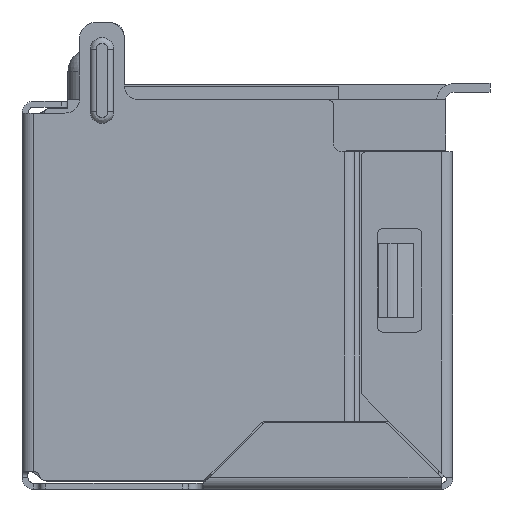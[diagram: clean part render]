
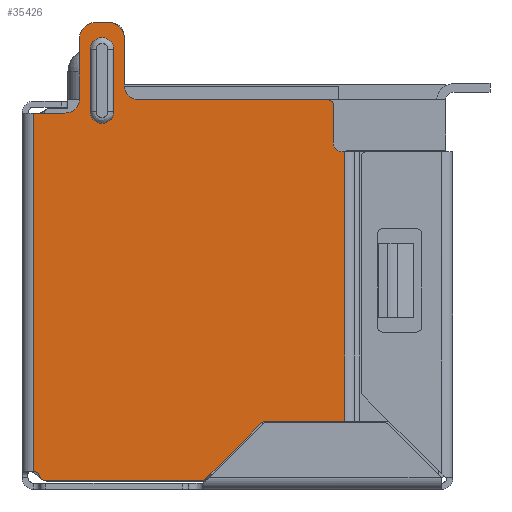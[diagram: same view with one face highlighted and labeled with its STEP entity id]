
A CAD part, left-side view. The second image highlights one B-rep face of the part: STEP entity #35426.
In plain terms, the highlighted planar face has unit normal (-1, 0, 0).
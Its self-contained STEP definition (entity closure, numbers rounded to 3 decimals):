
#29589=DIRECTION('',(0.,0.,-1.));
#29590=VECTOR('',#29589,12.1);
#29591=CARTESIAN_POINT('',(45.47,13.85,-2.21));
#29592=LINE('',#29591,#29590);
#29738=DIRECTION('',(0.,0.,-1.));
#29739=VECTOR('',#29738,1.6);
#29740=CARTESIAN_POINT('',(45.47,10.8,0.34));
#29741=LINE('',#29740,#29739);
#29742=CARTESIAN_POINT('',(45.47,10.3,-1.26));
#29743=DIRECTION('',(-1.,0.,0.));
#29744=DIRECTION('',(0.,1.,0.));
#29745=AXIS2_PLACEMENT_3D('',#29742,#29743,#29744);
#29747=DIRECTION('',(0.,-1.,0.));
#29748=VECTOR('',#29747,6.363);
#29749=CARTESIAN_POINT('',(45.47,10.3,-1.76));
#29750=LINE('',#29749,#29748);
#29751=CARTESIAN_POINT('',(45.47,3.937,-1.96));
#29752=DIRECTION('',(1.,0.,0.));
#29753=DIRECTION('',(0.,0.,1.));
#29754=AXIS2_PLACEMENT_3D('',#29751,#29752,#29753);
#29756=DIRECTION('',(0.,0.,-1.));
#29757=VECTOR('',#29756,1.25);
#29758=CARTESIAN_POINT('',(45.47,3.737,-1.96));
#29759=LINE('',#29758,#29757);
#29760=CARTESIAN_POINT('',(45.47,3.437,-3.21));
#29761=DIRECTION('',(-1.,0.,0.));
#29762=DIRECTION('',(0.,1.,0.));
#29763=AXIS2_PLACEMENT_3D('',#29760,#29761,#29762);
#29765=DIRECTION('',(0.,-1.,0.));
#29766=VECTOR('',#29765,0.089);
#29767=CARTESIAN_POINT('',(45.47,3.437,-3.51));
#29768=LINE('',#29767,#29766);
#29769=CARTESIAN_POINT('',(45.47,6.017,-12.81));
#29770=DIRECTION('',(-1.,0.,0.));
#29771=DIRECTION('',(0.,0.,1.));
#29772=AXIS2_PLACEMENT_3D('',#29769,#29770,#29771);
#29774=DIRECTION('',(0.,0.707,-0.707));
#29775=VECTOR('',#29774,2.663);
#29776=CARTESIAN_POINT('',(45.47,6.159,
-12.669));
#29777=LINE('',#29776,#29775);
#29778=CARTESIAN_POINT('',(45.47,8.183,-14.41));
#29779=DIRECTION('',(1.,0.,0.));
#29780=DIRECTION('',(0.,-0.707,-0.707));
#29781=AXIS2_PLACEMENT_3D('',#29778,#29779,#29780);
#29783=CARTESIAN_POINT('',(45.47,13.463,-14.41));
#29784=DIRECTION('',(1.,0.,0.));
#29785=DIRECTION('',(0.,0.,-1.));
#29786=AXIS2_PLACEMENT_3D('',#29783,#29784,#29785);
#29788=CARTESIAN_POINT('',(45.47,13.85,-14.51));
#29789=DIRECTION('',(-1.,0.,0.));
#29790=DIRECTION('',(0.,-0.968,0.25));
#29791=AXIS2_PLACEMENT_3D('',#29788,#29789,#29790);
#29793=DIRECTION('',(0.,-1.,0.));
#29794=VECTOR('',#29793,1.05);
#29795=CARTESIAN_POINT('',(45.47,13.85,-2.21));
#29796=LINE('',#29795,#29794);
#29797=CARTESIAN_POINT('',(45.47,12.8,-1.71));
#29798=DIRECTION('',(-1.,0.,0.));
#29799=DIRECTION('',(0.,0.,-1.));
#29800=AXIS2_PLACEMENT_3D('',#29797,#29798,#29799);
#29802=DIRECTION('',(0.,0.,1.));
#29803=VECTOR('',#29802,2.05);
#29804=CARTESIAN_POINT('',(45.47,12.3,-1.71));
#29805=LINE('',#29804,#29803);
#29806=CARTESIAN_POINT('',(45.47,11.8,0.34));
#29807=DIRECTION('',(1.,0.,0.));
#29808=DIRECTION('',(0.,1.,0.));
#29809=AXIS2_PLACEMENT_3D('',#29806,#29807,#29808);
#29811=DIRECTION('',(0.,-1.,0.));
#29812=VECTOR('',#29811,0.5);
#29813=CARTESIAN_POINT('',(45.47,11.8,0.84));
#29814=LINE('',#29813,#29812);
#29815=CARTESIAN_POINT('',(45.47,11.3,0.34));
#29816=DIRECTION('',(1.,0.,0.));
#29817=DIRECTION('',(0.,0.,1.));
#29818=AXIS2_PLACEMENT_3D('',#29815,#29816,#29817);
#29820=CARTESIAN_POINT('',(45.47,11.55,-2.16));
#29821=DIRECTION('',(-1.,0.,0.));
#29822=DIRECTION('',(0.,1.,0.));
#29823=AXIS2_PLACEMENT_3D('',#29820,#29821,#29822);
#29825=CARTESIAN_POINT('',(45.47,11.55,-0.06));
#29826=DIRECTION('',(-1.,0.,0.));
#29827=DIRECTION('',(0.,-1.,0.));
#29828=AXIS2_PLACEMENT_3D('',#29825,#29826,#29827);
#29968=DIRECTION('',(0.,-1.,0.));
#29969=VECTOR('',#29968,2.669);
#29970=CARTESIAN_POINT('',(45.47,6.017,-12.61));
#29971=LINE('',#29970,#29969);
#30002=DIRECTION('',(0.,-1.,0.));
#30003=VECTOR('',#30002,5.28);
#30004=CARTESIAN_POINT('',(45.47,13.463,-14.61));
#30005=LINE('',#30004,#30003);
#31909=DIRECTION('',(0.,0.,1.));
#31910=VECTOR('',#31909,9.1);
#31911=CARTESIAN_POINT('',(45.47,3.348,-12.61));
#31912=LINE('',#31911,#31910);
#32067=DIRECTION('',(0.,0.,1.));
#32068=VECTOR('',#32067,2.1);
#32069=CARTESIAN_POINT('',(45.47,11.95,-2.16));
#32070=LINE('',#32069,#32068);
#32086=DIRECTION('',(0.,0.,-1.));
#32087=VECTOR('',#32086,2.1);
#32088=CARTESIAN_POINT('',(45.47,11.15,-0.06));
#32089=LINE('',#32088,#32087);
#33789=CARTESIAN_POINT('',(45.47,13.85,-2.21));
#33790=VERTEX_POINT('',#33789);
#33791=CARTESIAN_POINT('',(45.47,13.85,-14.31));
#33792=VERTEX_POINT('',#33791);
#33795=CARTESIAN_POINT('',(45.47,12.8,-2.21));
#33797=VERTEX_POINT('',#33795);
#33802=CARTESIAN_POINT('',(45.47,12.3,-1.71));
#33804=VERTEX_POINT('',#33802);
#33807=CARTESIAN_POINT('',(45.47,12.3,0.34));
#33808=VERTEX_POINT('',#33807);
#33857=CARTESIAN_POINT('',(45.47,10.3,-1.76));
#33858=VERTEX_POINT('',#33857);
#33859=CARTESIAN_POINT('',(45.47,3.937,-1.76));
#33860=VERTEX_POINT('',#33859);
#33861=CARTESIAN_POINT('',(45.47,10.8,-1.26));
#33862=VERTEX_POINT('',#33861);
#33863=CARTESIAN_POINT('',(45.47,10.8,0.34));
#33864=VERTEX_POINT('',#33863);
#33865=CARTESIAN_POINT('',(45.47,3.737,-1.96));
#33866=VERTEX_POINT('',#33865);
#33867=CARTESIAN_POINT('',(45.47,3.737,-3.21));
#33868=VERTEX_POINT('',#33867);
#33869=CARTESIAN_POINT('',(45.47,3.437,-3.51));
#33870=VERTEX_POINT('',#33869);
#33871=CARTESIAN_POINT('',(45.47,3.348,-3.51));
#33872=VERTEX_POINT('',#33871);
#33873=CARTESIAN_POINT('',(45.47,3.348,-12.61));
#33874=VERTEX_POINT('',#33873);
#33875=CARTESIAN_POINT('',(45.47,6.017,-12.61));
#33876=VERTEX_POINT('',#33875);
#33877=CARTESIAN_POINT('',(45.47,6.159,
-12.669));
#33878=VERTEX_POINT('',#33877);
#33879=CARTESIAN_POINT('',(45.47,8.041,
-14.551));
#33880=VERTEX_POINT('',#33879);
#33881=CARTESIAN_POINT('',(45.47,8.183,-14.61));
#33882=VERTEX_POINT('',#33881);
#33883=CARTESIAN_POINT('',(45.47,13.463,-14.61));
#33884=VERTEX_POINT('',#33883);
#33885=CARTESIAN_POINT('',(45.47,13.656,-14.46));
#33886=VERTEX_POINT('',#33885);
#33887=CARTESIAN_POINT('',(45.47,11.8,0.84));
#33888=VERTEX_POINT('',#33887);
#33889=CARTESIAN_POINT('',(45.47,11.3,0.84));
#33890=VERTEX_POINT('',#33889);
#33891=CARTESIAN_POINT('',(45.47,11.95,-2.16));
#33892=CARTESIAN_POINT('',(45.47,11.95,-0.06));
#33893=VERTEX_POINT('',#33891);
#33894=VERTEX_POINT('',#33892);
#33895=CARTESIAN_POINT('',(45.47,11.15,-2.16));
#33896=VERTEX_POINT('',#33895);
#33897=CARTESIAN_POINT('',(45.47,11.15,-0.06));
#33898=VERTEX_POINT('',#33897);
#35372=CARTESIAN_POINT('',(45.47,14.133,1.143));
#35373=DIRECTION('',(-1.,0.,0.));
#35374=DIRECTION('',(0.,0.,-1.));
#35375=AXIS2_PLACEMENT_3D('',#35372,#35373,#35374);
#35376=PLANE('',#35375);
#35377=ORIENTED_EDGE('',*,*,#35364,.T.);
#35378=ORIENTED_EDGE('',*,*,#35353,.T.);
#35379=ORIENTED_EDGE('',*,*,#35339,.T.);
#35381=ORIENTED_EDGE('',*,*,#35380,.T.);
#35383=ORIENTED_EDGE('',*,*,#35382,.T.);
#35385=ORIENTED_EDGE('',*,*,#35384,.T.);
#35387=ORIENTED_EDGE('',*,*,#35386,.T.);
#35389=ORIENTED_EDGE('',*,*,#35388,.F.);
#35391=ORIENTED_EDGE('',*,*,#35390,.F.);
#35393=ORIENTED_EDGE('',*,*,#35392,.T.);
#35395=ORIENTED_EDGE('',*,*,#35394,.T.);
#35397=ORIENTED_EDGE('',*,*,#35396,.T.);
#35399=ORIENTED_EDGE('',*,*,#35398,.F.);
#35401=ORIENTED_EDGE('',*,*,#35400,.T.);
#35403=ORIENTED_EDGE('',*,*,#35402,.T.);
#35404=ORIENTED_EDGE('',*,*,#35208,.F.);
#35405=ORIENTED_EDGE('',*,*,#35225,.T.);
#35406=ORIENTED_EDGE('',*,*,#35243,.T.);
#35407=ORIENTED_EDGE('',*,*,#35261,.T.);
#35409=ORIENTED_EDGE('',*,*,#35408,.T.);
#35411=ORIENTED_EDGE('',*,*,#35410,.T.);
#35413=ORIENTED_EDGE('',*,*,#35412,.T.);
#35414=EDGE_LOOP('',(#35377,#35378,#35379,#35381,#35383,#35385,#35387,#35389,
#35391,#35393,#35395,#35397,#35399,#35401,#35403,#35404,#35405,#35406,#35407,
#35409,#35411,#35413));
#35415=FACE_OUTER_BOUND('',#35414,.F.);
#35417=ORIENTED_EDGE('',*,*,#35416,.F.);
#35419=ORIENTED_EDGE('',*,*,#35418,.T.);
#35421=ORIENTED_EDGE('',*,*,#35420,.F.);
#35423=ORIENTED_EDGE('',*,*,#35422,.T.);
#35424=EDGE_LOOP('',(#35417,#35419,#35421,#35423));
#35425=FACE_BOUND('',#35424,.F.);
#35426=ADVANCED_FACE('',(#35415,#35425),#35376,.T.);
#29746=CIRCLE('',#29745,0.5);
#29755=CIRCLE('',#29754,0.2);
#29764=CIRCLE('',#29763,0.3);
#29773=CIRCLE('',#29772,0.2);
#29782=CIRCLE('',#29781,0.2);
#29787=CIRCLE('',#29786,0.2);
#29792=CIRCLE('',#29791,0.2);
#29801=CIRCLE('',#29800,0.5);
#29810=CIRCLE('',#29809,0.5);
#29819=CIRCLE('',#29818,0.5);
#29824=CIRCLE('',#29823,0.4);
#29829=CIRCLE('',#29828,0.4);
#35208=EDGE_CURVE('',#33790,#33792,#29592,.T.);
#35225=EDGE_CURVE('',#33790,#33797,#29796,.T.);
#35243=EDGE_CURVE('',#33797,#33804,#29801,.T.);
#35261=EDGE_CURVE('',#33804,#33808,#29805,.T.);
#35339=EDGE_CURVE('',#33858,#33860,#29750,.T.);
#35353=EDGE_CURVE('',#33862,#33858,#29746,.T.);
#35364=EDGE_CURVE('',#33864,#33862,#29741,.T.);
#35380=EDGE_CURVE('',#33860,#33866,#29755,.T.);
#35382=EDGE_CURVE('',#33866,#33868,#29759,.T.);
#35384=EDGE_CURVE('',#33868,#33870,#29764,.T.);
#35386=EDGE_CURVE('',#33870,#33872,#29768,.T.);
#35388=EDGE_CURVE('',#33874,#33872,#31912,.T.);
#35390=EDGE_CURVE('',#33876,#33874,#29971,.T.);
#35392=EDGE_CURVE('',#33876,#33878,#29773,.T.);
#35394=EDGE_CURVE('',#33878,#33880,#29777,.T.);
#35396=EDGE_CURVE('',#33880,#33882,#29782,.T.);
#35398=EDGE_CURVE('',#33884,#33882,#30005,.T.);
#35400=EDGE_CURVE('',#33884,#33886,#29787,.T.);
#35402=EDGE_CURVE('',#33886,#33792,#29792,.T.);
#35408=EDGE_CURVE('',#33808,#33888,#29810,.T.);
#35410=EDGE_CURVE('',#33888,#33890,#29814,.T.);
#35412=EDGE_CURVE('',#33890,#33864,#29819,.T.);
#35416=EDGE_CURVE('',#33893,#33894,#32070,.T.);
#35418=EDGE_CURVE('',#33893,#33896,#29824,.T.);
#35420=EDGE_CURVE('',#33898,#33896,#32089,.T.);
#35422=EDGE_CURVE('',#33898,#33894,#29829,.T.);
